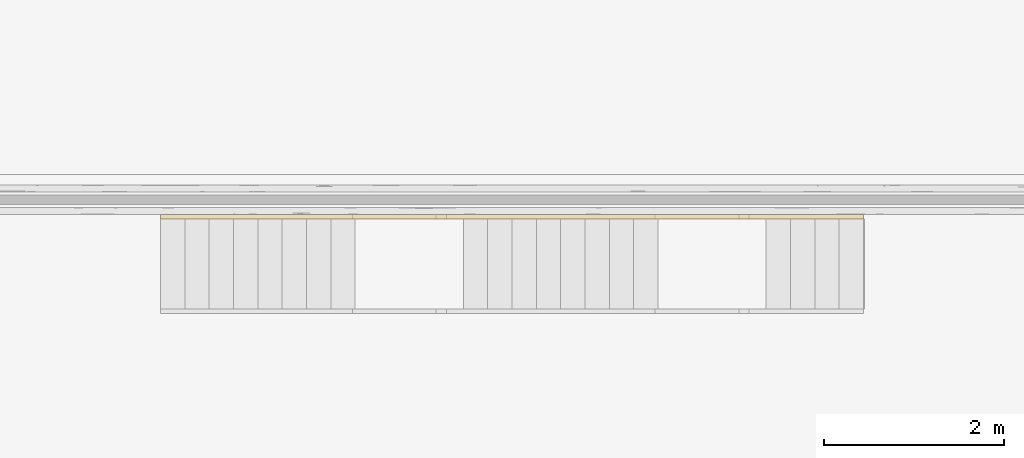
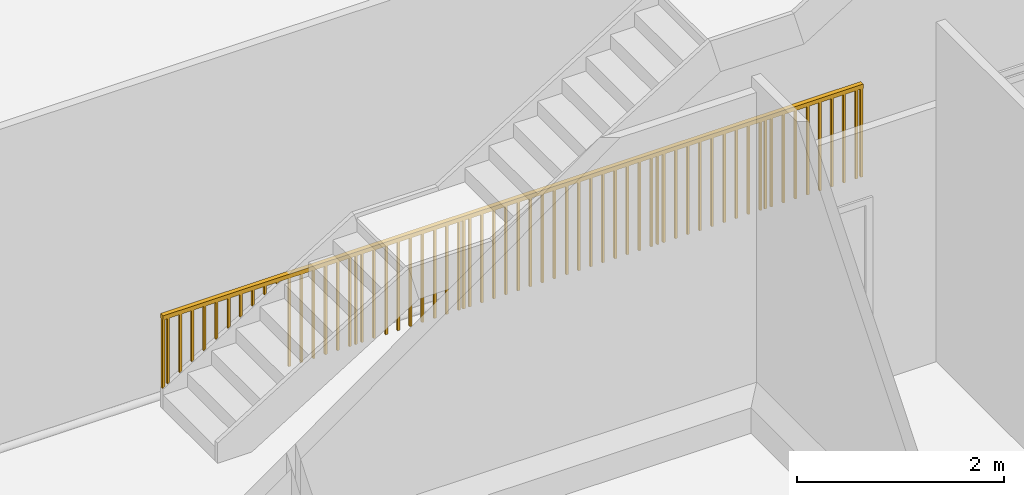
# One storey, part 59 of 64: 1 railing, 1 element without a shape of its own.
"""IFC2X3 building model written with IfcOpenShell, lengths in millimetres."""

from ifc_helpers import new_model, entity, si_unit, converted_unit, derived_unit, direction, frame, origin, place, context, subcontext, project, spatial, faceted_brep, element, aggregate, save


model = new_model("IFC2X3")

# Units and contexts
model_context = context("Model", 3, precision=0.01, world=origin(), true_north=direction((4.05803320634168e-15, -1.0)))
body_context = subcontext(model_context, "Body", "Model", "MODEL_VIEW")
ifc_project = project(units=[si_unit("LENGTHUNIT", "METRE", prefix="MILLI"), si_unit("AREAUNIT", "SQUARE_METRE"), si_unit("VOLUMEUNIT", "CUBIC_METRE"), converted_unit("PLANEANGLEUNIT", "DEGREE", entity("IfcRatioMeasure", 0.0174532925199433), si_unit("PLANEANGLEUNIT", "RADIAN"), dimensions=[0, 0, 0, 0, 0, 0, 0]), si_unit("MASSUNIT", "GRAM", prefix="KILO"), derived_unit("MASSDENSITYUNIT", [(si_unit("MASSUNIT", "GRAM", prefix="KILO"), 1), (si_unit("LENGTHUNIT", "METRE"), -3)]), si_unit("TIMEUNIT", "SECOND"), si_unit("FREQUENCYUNIT", "HERTZ"), si_unit("THERMODYNAMICTEMPERATUREUNIT", "DEGREE_CELSIUS"), derived_unit("THERMALTRANSMITTANCEUNIT", [(si_unit("MASSUNIT", "GRAM", prefix="KILO"), 1), (si_unit("THERMODYNAMICTEMPERATUREUNIT", "KELVIN"), -1), (si_unit("TIMEUNIT", "SECOND"), -3)]), derived_unit("VOLUMETRICFLOWRATEUNIT", [(si_unit("LENGTHUNIT", "METRE"), 3), (si_unit("TIMEUNIT", "SECOND"), -1)]), si_unit("ELECTRICCURRENTUNIT", "AMPERE"), si_unit("ELECTRICVOLTAGEUNIT", "VOLT"), si_unit("POWERUNIT", "WATT"), si_unit("FORCEUNIT", "NEWTON", prefix="KILO"), si_unit("ILLUMINANCEUNIT", "LUX"), si_unit("LUMINOUSFLUXUNIT", "LUMEN"), si_unit("LUMINOUSINTENSITYUNIT", "CANDELA"), derived_unit("USERDEFINED", [(si_unit("MASSUNIT", "GRAM", prefix="KILO"), -1), (si_unit("LENGTHUNIT", "METRE"), -2), (si_unit("TIMEUNIT", "SECOND"), 3), (si_unit("LUMINOUSFLUXUNIT", "LUMEN"), 1)]), derived_unit("LINEARVELOCITYUNIT", [(si_unit("LENGTHUNIT", "METRE"), 1), (si_unit("TIMEUNIT", "SECOND"), -1)]), si_unit("PRESSUREUNIT", "PASCAL"), derived_unit("USERDEFINED", [(si_unit("LENGTHUNIT", "METRE"), -2), (si_unit("MASSUNIT", "GRAM", prefix="KILO"), 1), (si_unit("TIMEUNIT", "SECOND"), -2)])], contexts=[model_context])

# Site, building, storey
site_placement = place(None, frame((927466.849349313, 583801.882853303, 0.0), z_axis=(0.0, 0.0, 1.0), x_axis=(-1.0, 0.0, 0.0)))
site = spatial("IfcSite", under=ifc_project, at=site_placement, Name="Surface", CompositionType="ELEMENT")
building_placement = place(site_placement, origin())
building = spatial("IfcBuilding", under=site, at=building_placement, CompositionType="ELEMENT")
storey_placement = place(building_placement, frame((0.0, 0.0, 44170.0)))
storey = spatial("IfcBuildingStorey", under=building, at=storey_placement, Name="Ground FFL", CompositionType="ELEMENT", Elevation=44170.0)

# Stair, railing
stair_placement = place(storey_placement, origin())
stair = element("IfcStair", 1, at=stair_placement, inside=storey, Name="Assembled Stair:Stair", ObjectType="Assembled Stair:170mm max riser 270mm going", ShapeType="NOTDEFINED")
railing_placement = place(stair_placement, frame((-112968.940011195, 12122.4703497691, 0.0)))
railing = element("IfcRailing", 2, at=railing_placement, Name="Railing:1100mm", ObjectType="Railing:1100mm", PredefinedType="NOTDEFINED", context=body_context, shape_type="Brep", body=[
    faceted_brep([(80.0, 37.5000000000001, 1050.0), (80.0, 12.4999999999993, 1050.0), (80.0, 12.5000000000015, 0.0), (80.0, 37.5000000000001, 0.0), (55.0, 12.5000000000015, 1050.0), (55.0, 12.5000000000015, 0.0), (55.0, 37.5000000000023, 1050.0), (55.0, 37.5000000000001, 0.0)], [[[0, 1, 2, 3]], [[1, 4, 5, 2]], [[4, 6, 7, 5]], [[3, 7, 6, 0]], [[0, 6, 4, 1]], [[2, 5, 7, 3]]]),
    faceted_brep([(215.0, 37.5000000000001, 1050.0), (215.0, 12.4999999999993, 1050.0), (215.0, 12.5000000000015, 0.0), (215.0, 37.5000000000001, 0.0), (190.0, 12.5000000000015, 1050.0), (190.0, 12.5000000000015, 0.0), (190.0, 37.5000000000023, 1050.0), (190.0, 37.5000000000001, 0.0)], [[[0, 1, 2, 3]], [[1, 4, 5, 2]], [[4, 6, 7, 5]], [[3, 7, 6, 0]], [[0, 6, 4, 1]], [[2, 5, 7, 3]]]),
    faceted_brep([(350.0, 37.5000000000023, 1050.0), (350.0, 12.5000000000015, 1050.0), (350.0, 12.5000000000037, 0.0), (350.0, 37.5000000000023, 0.0), (325.0, 12.5000000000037, 1050.0), (325.0, 12.5000000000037, 0.0), (325.0, 37.5000000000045, 1050.0), (325.0, 37.5000000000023, 0.0)], [[[0, 1, 2, 3]], [[1, 4, 5, 2]], [[4, 6, 7, 5]], [[3, 7, 6, 0]], [[0, 6, 4, 1]], [[2, 5, 7, 3]]]),
    faceted_brep([(485.0, 37.5000000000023, 1050.0), (485.0, 12.5000000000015, 1050.0), (485.0, 12.5000000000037, 0.0), (485.0, 37.5000000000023, 0.0), (460.0, 12.5000000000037, 1050.0), (460.0, 12.5000000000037, 0.0), (460.0, 37.5000000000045, 1050.0), (460.0, 37.5000000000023, 0.0)], [[[0, 1, 2, 3]], [[1, 4, 5, 2]], [[4, 6, 7, 5]], [[3, 7, 6, 0]], [[0, 6, 4, 1]], [[2, 5, 7, 3]]]),
    faceted_brep([(620.0, 37.5000000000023, 1050.0), (620.0, 12.5000000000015, 1050.0), (620.0, 12.5000000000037, 0.0), (620.0, 37.5000000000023, 0.0), (595.0, 12.5000000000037, 1050.0), (595.0, 12.5000000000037, 0.0), (595.0, 37.5000000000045, 1050.0), (595.0, 37.5000000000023, 0.0)], [[[0, 1, 2, 3]], [[1, 4, 5, 2]], [[4, 6, 7, 5]], [[3, 7, 6, 0]], [[0, 6, 4, 1]], [[2, 5, 7, 3]]]),
    faceted_brep([(755.0, 37.5000000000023, 1050.0), (755.0, 12.5000000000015, 1050.0), (755.0, 12.5000000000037, 0.0), (755.0, 37.5000000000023, 0.0), (730.0, 12.5000000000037, 1050.0), (730.0, 12.5000000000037, 0.0), (730.0, 37.5000000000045, 1050.0), (730.0, 37.5000000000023, 0.0)], [[[0, 1, 2, 3]], [[1, 4, 5, 2]], [[4, 6, 7, 5]], [[3, 7, 6, 0]], [[0, 6, 4, 1]], [[2, 5, 7, 3]]]),
    faceted_brep([(890.0, 37.5000000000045, 1050.0), (890.0, 12.5000000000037, 1050.0), (890.0, 12.5000000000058, 0.0), (890.0, 37.5000000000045, 0.0), (865.0, 12.5000000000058, 1050.0), (865.0, 12.5000000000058, 0.0), (865.0, 37.5000000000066, 1050.0), (865.0, 37.5000000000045, 0.0)], [[[0, 1, 2, 3]], [[1, 4, 5, 2]], [[4, 6, 7, 5]], [[3, 7, 6, 0]], [[0, 6, 4, 1]], [[2, 5, 7, 3]]]),
    faceted_brep([(1025.0, 37.5000000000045, 1050.0), (1025.0, 12.5000000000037, 1050.0), (1025.0, 12.5000000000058, 0.0), (1025.0, 37.5000000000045, 0.0), (1000.0, 12.5000000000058, 1050.0), (1000.0, 12.5000000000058, 0.0), (1000.0, 37.5000000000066, 1050.0), (1000.0, 37.5000000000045, 0.0)], [[[0, 1, 2, 3]], [[1, 4, 5, 2]], [[4, 6, 7, 5]], [[3, 7, 6, 0]], [[0, 6, 4, 1]], [[2, 5, 7, 3]]]),
    faceted_brep([(1145.0, 37.5000000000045, 1050.0), (1145.0, 12.5000000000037, 1050.0), (1145.0, 12.5000000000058, 0.0), (1145.0, 37.5000000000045, 0.0), (1120.0, 12.5000000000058, 1050.0), (1120.0, 12.5000000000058, 0.0), (1120.0, 37.5000000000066, 1050.0), (1120.0, 37.5000000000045, 0.0)], [[[0, 1, 2, 3]], [[1, 4, 5, 2]], [[4, 6, 7, 5]], [[3, 7, 6, 0]], [[0, 6, 4, 1]], [[2, 5, 7, 3]]]),
    faceted_brep([(1280.0, 37.5000000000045, 1050.0), (1280.0, 12.5000000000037, 1050.0), (1280.0, 12.5000000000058, 0.0), (1280.0, 37.5000000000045, 0.0), (1255.0, 12.5000000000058, 1050.0), (1255.0, 12.5000000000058, 0.0), (1255.0, 37.5000000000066, 1050.0), (1255.0, 37.5000000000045, 0.0)], [[[0, 1, 2, 3]], [[1, 4, 5, 2]], [[4, 6, 7, 5]], [[3, 7, 6, 0]], [[0, 6, 4, 1]], [[2, 5, 7, 3]]]),
    faceted_brep([(1415.0, 37.5000000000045, 1050.0), (1415.0, 12.5000000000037, 1050.0), (1415.0, 12.5000000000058, 0.0), (1415.0, 37.5000000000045, 0.0), (1390.0, 12.5000000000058, 1050.0), (1390.0, 12.5000000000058, 0.0), (1390.0, 37.5000000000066, 1050.0), (1390.0, 37.5000000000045, 0.0)], [[[0, 1, 2, 3]], [[1, 4, 5, 2]], [[4, 6, 7, 5]], [[3, 7, 6, 0]], [[0, 6, 4, 1]], [[2, 5, 7, 3]]]),
    faceted_brep([(1550.0, 37.5000000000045, 1050.0), (1550.0, 12.5000000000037, 1050.0), (1550.0, 12.5000000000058, 0.0), (1550.0, 37.5000000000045, 0.0), (1525.0, 12.5000000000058, 1050.0), (1525.0, 12.5000000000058, 0.0), (1525.0, 37.5000000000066, 1050.0), (1525.0, 37.5000000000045, 0.0)], [[[0, 1, 2, 3]], [[1, 4, 5, 2]], [[4, 6, 7, 5]], [[3, 7, 6, 0]], [[0, 6, 4, 1]], [[2, 5, 7, 3]]]),
    faceted_brep([(1685.0, 37.5000000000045, 1050.0), (1685.0, 12.5000000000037, 1050.0), (1685.0, 12.5000000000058, 0.0), (1685.0, 37.5000000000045, 0.0), (1660.0, 12.5000000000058, 1050.0), (1660.0, 12.5000000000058, 0.0), (1660.0, 37.5000000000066, 1050.0), (1660.0, 37.5000000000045, 0.0)], [[[0, 1, 2, 3]], [[1, 4, 5, 2]], [[4, 6, 7, 5]], [[3, 7, 6, 0]], [[0, 6, 4, 1]], [[2, 5, 7, 3]]]),
    faceted_brep([(1820.0, 37.5000000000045, 1050.0), (1820.0, 12.5000000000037, 1050.0), (1820.0, 12.5000000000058, 0.0), (1820.0, 37.5000000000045, 0.0), (1795.0, 12.5000000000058, 1050.0), (1795.0, 12.5000000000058, 0.0), (1795.0, 37.5000000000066, 1050.0), (1795.0, 37.5000000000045, 0.0)], [[[0, 1, 2, 3]], [[1, 4, 5, 2]], [[4, 6, 7, 5]], [[3, 7, 6, 0]], [[0, 6, 4, 1]], [[2, 5, 7, 3]]]),
    faceted_brep([(1955.0, 37.5000000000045, 1050.0), (1955.0, 12.5000000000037, 1050.0), (1955.0, 12.5000000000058, 0.0), (1955.0, 37.5000000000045, 0.0), (1930.0, 12.5000000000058, 1050.0), (1930.0, 12.5000000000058, 0.0), (1930.0, 37.5000000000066, 1050.0), (1930.0, 37.5000000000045, 0.0)], [[[0, 1, 2, 3]], [[1, 4, 5, 2]], [[4, 6, 7, 5]], [[3, 7, 6, 0]], [[0, 6, 4, 1]], [[2, 5, 7, 3]]]),
    faceted_brep([(2090.0, 37.5000000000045, 1050.0), (2090.0, 12.5000000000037, 1050.0), (2090.0, 12.5000000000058, 0.0), (2090.0, 37.5000000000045, 0.0), (2065.0, 12.5000000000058, 1050.0), (2065.0, 12.5000000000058, 0.0), (2065.0, 37.5000000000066, 1050.0), (2065.0, 37.5000000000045, 0.0)], [[[0, 1, 2, 3]], [[1, 4, 5, 2]], [[4, 6, 7, 5]], [[3, 7, 6, 0]], [[0, 6, 4, 1]], [[2, 5, 7, 3]]]),
    faceted_brep([(2225.0, 37.5000000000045, 1050.0), (2225.0, 12.5000000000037, 1050.0), (2225.0, 12.5000000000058, 0.0), (2225.0, 37.5000000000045, 0.0), (2200.0, 12.5000000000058, 1050.0), (2200.0, 12.5000000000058, 0.0), (2200.0, 37.5000000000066, 1050.0), (2200.0, 37.5000000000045, 0.0)], [[[0, 1, 2, 3]], [[1, 4, 5, 2]], [[4, 6, 7, 5]], [[3, 7, 6, 0]], [[0, 6, 4, 1]], [[2, 5, 7, 3]]]),
    faceted_brep([(2360.0, 37.5000000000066, 1050.0), (2360.0, 12.5000000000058, 1050.0), (2360.0, 12.500000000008, 0.0), (2360.0, 37.5000000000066, 0.0), (2335.0, 12.500000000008, 1050.0), (2335.0, 12.500000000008, 0.0), (2335.0, 37.5000000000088, 1050.0), (2335.0, 37.5000000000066, 0.0)], [[[0, 1, 2, 3]], [[1, 4, 5, 2]], [[4, 6, 7, 5]], [[3, 7, 6, 0]], [[0, 6, 4, 1]], [[2, 5, 7, 3]]]),
    faceted_brep([(2495.0, 37.5000000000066, 1050.0), (2495.0, 12.5000000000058, 1050.0), (2495.0, 12.500000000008, 0.0), (2495.0, 37.5000000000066, 0.0), (2470.0, 12.500000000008, 1050.0), (2470.0, 12.500000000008, 0.0), (2470.0, 37.5000000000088, 1050.0), (2470.0, 37.5000000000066, 0.0)], [[[0, 1, 2, 3]], [[1, 4, 5, 2]], [[4, 6, 7, 5]], [[3, 7, 6, 0]], [[0, 6, 4, 1]], [[2, 5, 7, 3]]]),
    faceted_brep([(2630.0, 37.5000000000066, 1050.0), (2630.0, 12.5000000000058, 1050.0), (2630.0, 12.500000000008, 0.0), (2630.0, 37.5000000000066, 0.0), (2605.0, 12.500000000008, 1050.0), (2605.0, 12.500000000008, 0.0), (2605.0, 37.5000000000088, 1050.0), (2605.0, 37.5000000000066, 0.0)], [[[0, 1, 2, 3]], [[1, 4, 5, 2]], [[4, 6, 7, 5]], [[3, 7, 6, 0]], [[0, 6, 4, 1]], [[2, 5, 7, 3]]]),
    faceted_brep([(2765.0, 37.5000000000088, 1050.0), (2765.0, 12.500000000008, 1050.0), (2765.0, 12.5000000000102, 0.0), (2765.0, 37.5000000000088, 0.0), (2740.0, 12.5000000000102, 1050.0), (2740.0, 12.5000000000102, 0.0), (2740.0, 37.500000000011, 1050.0), (2740.0, 37.5000000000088, 0.0)], [[[0, 1, 2, 3]], [[1, 4, 5, 2]], [[4, 6, 7, 5]], [[3, 7, 6, 0]], [[0, 6, 4, 1]], [[2, 5, 7, 3]]]),
    faceted_brep([(2900.0, 37.5000000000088, 1050.0), (2900.0, 12.500000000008, 1050.0), (2900.0, 12.5000000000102, 0.0), (2900.0, 37.5000000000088, 0.0), (2875.0, 12.5000000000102, 1050.0), (2875.0, 12.5000000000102, 0.0), (2875.0, 37.500000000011, 1050.0), (2875.0, 37.5000000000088, 0.0)], [[[0, 1, 2, 3]], [[1, 4, 5, 2]], [[4, 6, 7, 5]], [[3, 7, 6, 0]], [[0, 6, 4, 1]], [[2, 5, 7, 3]]]),
    faceted_brep([(3035.0, 37.5000000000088, 1050.0), (3035.0, 12.500000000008, 1050.0), (3035.0, 12.5000000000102, 0.0), (3035.0, 37.5000000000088, 0.0), (3010.0, 12.5000000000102, 1050.0), (3010.0, 12.5000000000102, 0.0), (3010.0, 37.500000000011, 1050.0), (3010.0, 37.5000000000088, 0.0)], [[[0, 1, 2, 3]], [[1, 4, 5, 2]], [[4, 6, 7, 5]], [[3, 7, 6, 0]], [[0, 6, 4, 1]], [[2, 5, 7, 3]]]),
    faceted_brep([(3170.0, 37.5000000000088, 1050.0), (3170.0, 12.500000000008, 1050.0), (3170.0, 12.5000000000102, 0.0), (3170.0, 37.5000000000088, 0.0), (3145.0, 12.5000000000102, 1050.0), (3145.0, 12.5000000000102, 0.0), (3145.0, 37.500000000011, 1050.0), (3145.0, 37.5000000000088, 0.0)], [[[0, 1, 2, 3]], [[1, 4, 5, 2]], [[4, 6, 7, 5]], [[3, 7, 6, 0]], [[0, 6, 4, 1]], [[2, 5, 7, 3]]]),
    faceted_brep([(3305.0, 37.5000000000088, 1050.0), (3305.0, 12.500000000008, 1050.0), (3305.0, 12.5000000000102, 0.0), (3305.0, 37.5000000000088, 0.0), (3280.0, 12.5000000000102, 1050.0), (3280.0, 12.5000000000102, 0.0), (3280.0, 37.500000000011, 1050.0), (3280.0, 37.5000000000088, 0.0)], [[[0, 1, 2, 3]], [[1, 4, 5, 2]], [[4, 6, 7, 5]], [[3, 7, 6, 0]], [[0, 6, 4, 1]], [[2, 5, 7, 3]]]),
    faceted_brep([(3440.0, 37.500000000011, 1050.0), (3440.0, 12.5000000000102, 1050.0), (3440.0, 12.5000000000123, 0.0), (3440.0, 37.500000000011, 0.0), (3415.0, 12.5000000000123, 1050.0), (3415.0, 12.5000000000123, 0.0), (3415.0, 37.5000000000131, 1050.0), (3415.0, 37.500000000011, 0.0)], [[[0, 1, 2, 3]], [[1, 4, 5, 2]], [[4, 6, 7, 5]], [[3, 7, 6, 0]], [[0, 6, 4, 1]], [[2, 5, 7, 3]]]),
    faceted_brep([(3575.0, 37.500000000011, 1050.0), (3575.0, 12.5000000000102, 1050.0), (3575.0, 12.5000000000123, 0.0), (3575.0, 37.500000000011, 0.0), (3550.0, 12.5000000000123, 1050.0), (3550.0, 12.5000000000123, 0.0), (3550.0, 37.5000000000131, 1050.0), (3550.0, 37.500000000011, 0.0)], [[[0, 1, 2, 3]], [[1, 4, 5, 2]], [[4, 6, 7, 5]], [[3, 7, 6, 0]], [[0, 6, 4, 1]], [[2, 5, 7, 3]]]),
    faceted_brep([(3710.0, 37.500000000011, 1050.0), (3710.0, 12.5000000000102, 1050.0), (3710.0, 12.5000000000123, 0.0), (3710.0, 37.500000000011, 0.0), (3685.0, 12.5000000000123, 1050.0), (3685.0, 12.5000000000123, 0.0), (3685.0, 37.5000000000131, 1050.0), (3685.0, 37.500000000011, 0.0)], [[[0, 1, 2, 3]], [[1, 4, 5, 2]], [[4, 6, 7, 5]], [[3, 7, 6, 0]], [[0, 6, 4, 1]], [[2, 5, 7, 3]]]),
    faceted_brep([(3845.0, 37.500000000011, 1050.0), (3845.0, 12.5000000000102, 1050.0), (3845.0, 12.5000000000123, 0.0), (3845.0, 37.500000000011, 0.0), (3820.0, 12.5000000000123, 1050.0), (3820.0, 12.5000000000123, 0.0), (3820.0, 37.5000000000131, 1050.0), (3820.0, 37.500000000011, 0.0)], [[[0, 1, 2, 3]], [[1, 4, 5, 2]], [[4, 6, 7, 5]], [[3, 7, 6, 0]], [[0, 6, 4, 1]], [[2, 5, 7, 3]]]),
    faceted_brep([(3980.0, 37.500000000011, 1050.0), (3980.0, 12.5000000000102, 1050.0), (3980.0, 12.5000000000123, 0.0), (3980.0, 37.500000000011, 0.0), (3955.0, 12.5000000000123, 1050.0), (3955.0, 12.5000000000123, 0.0), (3955.0, 37.5000000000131, 1050.0), (3955.0, 37.500000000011, 0.0)], [[[0, 1, 2, 3]], [[1, 4, 5, 2]], [[4, 6, 7, 5]], [[3, 7, 6, 0]], [[0, 6, 4, 1]], [[2, 5, 7, 3]]]),
    faceted_brep([(4115.0, 37.5000000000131, 1050.0), (4115.0, 12.5000000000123, 1050.0), (4115.0, 12.5000000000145, 0.0), (4115.0, 37.5000000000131, 0.0), (4090.0, 12.5000000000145, 1050.0), (4090.0, 12.5000000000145, 0.0), (4090.0, 37.5000000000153, 1050.0), (4090.0, 37.5000000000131, 0.0)], [[[0, 1, 2, 3]], [[1, 4, 5, 2]], [[4, 6, 7, 5]], [[3, 7, 6, 0]], [[0, 6, 4, 1]], [[2, 5, 7, 3]]]),
    faceted_brep([(4250.0, 37.5000000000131, 1050.0), (4250.0, 12.5000000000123, 1050.0), (4250.0, 12.5000000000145, 0.0), (4250.0, 37.5000000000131, 0.0), (4225.0, 12.5000000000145, 1050.0), (4225.0, 12.5000000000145, 0.0), (4225.0, 37.5000000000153, 1050.0), (4225.0, 37.5000000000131, 0.0)], [[[0, 1, 2, 3]], [[1, 4, 5, 2]], [[4, 6, 7, 5]], [[3, 7, 6, 0]], [[0, 6, 4, 1]], [[2, 5, 7, 3]]]),
    faceted_brep([(4385.0, 37.5000000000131, 1050.0), (4385.0, 12.5000000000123, 1050.0), (4385.0, 12.5000000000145, 0.0), (4385.0, 37.5000000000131, 0.0), (4360.0, 12.5000000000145, 1050.0), (4360.0, 12.5000000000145, 0.0), (4360.0, 37.5000000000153, 1050.0), (4360.0, 37.5000000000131, 0.0)], [[[0, 1, 2, 3]], [[1, 4, 5, 2]], [[4, 6, 7, 5]], [[3, 7, 6, 0]], [[0, 6, 4, 1]], [[2, 5, 7, 3]]]),
    faceted_brep([(4504.94550989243, 37.5000000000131, 1050.0), (4504.94550989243, 12.5000000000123, 1050.0), (4504.94550989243, 12.5000000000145, 0.0), (4504.94550989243, 37.5000000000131, 0.0), (4479.94550989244, 12.5000000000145, 1050.0), (4479.94550989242, 12.5000000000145, 0.0), (4479.94550989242, 37.5000000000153, 1050.0), (4479.94550989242, 37.5000000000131, 0.0)], [[[0, 1, 2, 3]], [[1, 4, 5, 2]], [[4, 6, 7, 5]], [[3, 7, 6, 0]], [[0, 6, 4, 1]], [[2, 5, 7, 3]]]),
    faceted_brep([(4639.94550989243, 37.5000000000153, 1050.0), (4639.94550989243, 12.5000000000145, 1050.0), (4639.94550989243, 12.5000000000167, 0.0), (4639.94550989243, 37.5000000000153, 0.0), (4614.94550989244, 12.5000000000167, 1050.0), (4614.94550989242, 12.5000000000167, 0.0), (4614.94550989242, 37.5000000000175, 1050.0), (4614.94550989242, 37.5000000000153, 0.0)], [[[0, 1, 2, 3]], [[1, 4, 5, 2]], [[4, 6, 7, 5]], [[3, 7, 6, 0]], [[0, 6, 4, 1]], [[2, 5, 7, 3]]]),
    faceted_brep([(4774.94550989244, 37.5000000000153, 1050.0), (4774.94550989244, 12.5000000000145, 1050.0), (4774.94550989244, 12.5000000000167, 0.0), (4774.94550989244, 37.5000000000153, 0.0), (4749.94550989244, 12.5000000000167, 1050.0), (4749.94550989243, 12.5000000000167, 0.0), (4749.94550989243, 37.5000000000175, 1050.0), (4749.94550989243, 37.5000000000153, 0.0)], [[[0, 1, 2, 3]], [[1, 4, 5, 2]], [[4, 6, 7, 5]], [[3, 7, 6, 0]], [[0, 6, 4, 1]], [[2, 5, 7, 3]]]),
    faceted_brep([(4909.94550989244, 37.5000000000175, 1050.0), (4909.94550989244, 12.5000000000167, 1050.0), (4909.94550989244, 12.5000000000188, 0.0), (4909.94550989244, 37.5000000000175, 0.0), (4884.94550989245, 12.5000000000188, 1050.0), (4884.94550989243, 12.5000000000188, 0.0), (4884.94550989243, 37.5000000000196, 1050.0), (4884.94550989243, 37.5000000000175, 0.0)], [[[0, 1, 2, 3]], [[1, 4, 5, 2]], [[4, 6, 7, 5]], [[3, 7, 6, 0]], [[0, 6, 4, 1]], [[2, 5, 7, 3]]]),
    faceted_brep([(5044.94550989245, 37.5000000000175, 1050.0), (5044.94550989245, 12.5000000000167, 1050.0), (5044.94550989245, 12.5000000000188, 0.0), (5044.94550989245, 37.5000000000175, 0.0), (5019.94550989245, 12.5000000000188, 1050.0), (5019.94550989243, 12.5000000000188, 0.0), (5019.94550989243, 37.5000000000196, 1050.0), (5019.94550989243, 37.5000000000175, 0.0)], [[[0, 1, 2, 3]], [[1, 4, 5, 2]], [[4, 6, 7, 5]], [[3, 7, 6, 0]], [[0, 6, 4, 1]], [[2, 5, 7, 3]]]),
    faceted_brep([(5179.94550989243, 37.5000000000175, 1050.0), (5179.94550989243, 12.5000000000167, 1050.0), (5179.94550989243, 12.5000000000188, 0.0), (5179.94550989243, 37.5000000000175, 0.0), (5154.94550989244, 12.5000000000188, 1050.0), (5154.94550989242, 12.5000000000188, 0.0), (5154.94550989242, 37.5000000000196, 1050.0), (5154.94550989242, 37.5000000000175, 0.0)], [[[0, 1, 2, 3]], [[1, 4, 5, 2]], [[4, 6, 7, 5]], [[3, 7, 6, 0]], [[0, 6, 4, 1]], [[2, 5, 7, 3]]]),
    faceted_brep([(5314.94550989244, 37.5000000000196, 1050.0), (5314.94550989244, 12.5000000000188, 1050.0), (5314.94550989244, 12.500000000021, 0.0), (5314.94550989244, 37.5000000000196, 0.0), (5289.94550989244, 12.500000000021, 1050.0), (5289.94550989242, 12.500000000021, 0.0), (5289.94550989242, 37.5000000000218, 1050.0), (5289.94550989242, 37.5000000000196, 0.0)], [[[0, 1, 2, 3]], [[1, 4, 5, 2]], [[4, 6, 7, 5]], [[3, 7, 6, 0]], [[0, 6, 4, 1]], [[2, 5, 7, 3]]]),
    faceted_brep([(5449.94550989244, 37.5000000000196, 1050.0), (5449.94550989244, 12.5000000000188, 1050.0), (5449.94550989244, 12.500000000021, 0.0), (5449.94550989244, 37.5000000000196, 0.0), (5424.94550989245, 12.500000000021, 1050.0), (5424.94550989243, 12.500000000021, 0.0), (5424.94550989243, 37.5000000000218, 1050.0), (5424.94550989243, 37.5000000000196, 0.0)], [[[0, 1, 2, 3]], [[1, 4, 5, 2]], [[4, 6, 7, 5]], [[3, 7, 6, 0]], [[0, 6, 4, 1]], [[2, 5, 7, 3]]]),
    faceted_brep([(5584.94550989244, 37.5000000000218, 1050.0), (5584.94550989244, 12.500000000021, 1050.0), (5584.94550989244, 12.5000000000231, 0.0), (5584.94550989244, 37.5000000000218, 0.0), (5559.94550989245, 12.5000000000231, 1050.0), (5559.94550989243, 12.5000000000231, 0.0), (5559.94550989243, 37.500000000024, 1050.0), (5559.94550989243, 37.5000000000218, 0.0)], [[[0, 1, 2, 3]], [[1, 4, 5, 2]], [[4, 6, 7, 5]], [[3, 7, 6, 0]], [[0, 6, 4, 1]], [[2, 5, 7, 3]]]),
    faceted_brep([(5719.94550989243, 37.500000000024, 1050.0), (5719.94550989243, 12.5000000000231, 1050.0), (5719.94550989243, 12.5000000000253, 0.0), (5719.94550989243, 37.500000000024, 0.0), (5694.94550989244, 12.5000000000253, 1050.0), (5694.94550989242, 12.5000000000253, 0.0), (5694.94550989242, 37.5000000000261, 1050.0), (5694.94550989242, 37.500000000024, 0.0)], [[[0, 1, 2, 3]], [[1, 4, 5, 2]], [[4, 6, 7, 5]], [[3, 7, 6, 0]], [[0, 6, 4, 1]], [[2, 5, 7, 3]]]),
    faceted_brep([(5854.94550989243, 37.500000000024, 1050.0), (5854.94550989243, 12.5000000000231, 1050.0), (5854.94550989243, 12.5000000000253, 0.0), (5854.94550989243, 37.500000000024, 0.0), (5829.94550989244, 12.5000000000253, 1050.0), (5829.94550989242, 12.5000000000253, 0.0), (5829.94550989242, 37.5000000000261, 1050.0), (5829.94550989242, 37.500000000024, 0.0)], [[[0, 1, 2, 3]], [[1, 4, 5, 2]], [[4, 6, 7, 5]], [[3, 7, 6, 0]], [[0, 6, 4, 1]], [[2, 5, 7, 3]]]),
    faceted_brep([(5989.94550989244, 37.500000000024, 1050.0), (5989.94550989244, 12.5000000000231, 1050.0), (5989.94550989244, 12.5000000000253, 0.0), (5989.94550989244, 37.500000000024, 0.0), (5964.94550989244, 12.5000000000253, 1050.0), (5964.94550989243, 12.5000000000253, 0.0), (5964.94550989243, 37.5000000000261, 1050.0), (5964.94550989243, 37.500000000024, 0.0)], [[[0, 1, 2, 3]], [[1, 4, 5, 2]], [[4, 6, 7, 5]], [[3, 7, 6, 0]], [[0, 6, 4, 1]], [[2, 5, 7, 3]]]),
    faceted_brep([(6124.94550989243, 37.5000000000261, 1050.0), (6124.94550989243, 12.5000000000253, 1050.0), (6124.94550989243, 12.5000000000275, 0.0), (6124.94550989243, 37.5000000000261, 0.0), (6099.94550989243, 12.5000000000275, 1050.0), (6099.94550989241, 12.5000000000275, 0.0), (6099.94550989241, 37.5000000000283, 1050.0), (6099.94550989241, 37.5000000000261, 0.0)], [[[0, 1, 2, 3]], [[1, 4, 5, 2]], [[4, 6, 7, 5]], [[3, 7, 6, 0]], [[0, 6, 4, 1]], [[2, 5, 7, 3]]]),
    faceted_brep([(6259.94550989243, 37.5000000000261, 1050.0), (6259.94550989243, 12.5000000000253, 1050.0), (6259.94550989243, 12.5000000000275, 0.0), (6259.94550989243, 37.5000000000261, 0.0), (6234.94550989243, 12.5000000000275, 1050.0), (6234.94550989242, 12.5000000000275, 0.0), (6234.94550989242, 37.5000000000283, 1050.0), (6234.94550989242, 37.5000000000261, 0.0)], [[[0, 1, 2, 3]], [[1, 4, 5, 2]], [[4, 6, 7, 5]], [[3, 7, 6, 0]], [[0, 6, 4, 1]], [[2, 5, 7, 3]]]),
    faceted_brep([(6394.94550989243, 37.5000000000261, 1050.0), (6394.94550989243, 12.5000000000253, 1050.0), (6394.94550989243, 12.5000000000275, 0.0), (6394.94550989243, 37.5000000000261, 0.0), (6369.94550989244, 12.5000000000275, 1050.0), (6369.94550989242, 12.5000000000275, 0.0), (6369.94550989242, 37.5000000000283, 1050.0), (6369.94550989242, 37.5000000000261, 0.0)], [[[0, 1, 2, 3]], [[1, 4, 5, 2]], [[4, 6, 7, 5]], [[3, 7, 6, 0]], [[0, 6, 4, 1]], [[2, 5, 7, 3]]]),
    faceted_brep([(6529.94550989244, 37.5000000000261, 1050.0), (6529.94550989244, 12.5000000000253, 1050.0), (6529.94550989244, 12.5000000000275, 1020.02865775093), (6529.94550989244, 37.5000000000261, 1020.02865775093), (6504.94550989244, 12.5000000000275, 1050.0), (6504.94550989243, 12.5000000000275, 1035.46075651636), (6504.94550989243, 37.5000000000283, 1050.0), (6504.94550989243, 37.5000000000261, 1035.46075651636)], [[[0, 1, 2, 3]], [[1, 4, 5, 2]], [[4, 6, 7, 5]], [[3, 7, 6, 0]], [[0, 6, 4, 1]], [[2, 5, 7, 3]]]),
    faceted_brep([(6664.94550989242, 37.5000000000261, 1050.0), (6664.94550989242, 12.5000000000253, 1050.0), (6664.94550989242, 12.5000000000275, 936.695324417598), (6664.94550989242, 37.5000000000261, 936.695324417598), (6639.94550989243, 12.5000000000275, 1050.0), (6639.94550989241, 12.5000000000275, 952.127423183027), (6639.94550989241, 37.5000000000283, 1050.0), (6639.94550989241, 37.5000000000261, 952.127423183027)], [[[0, 1, 2, 3]], [[1, 4, 5, 2]], [[4, 6, 7, 5]], [[3, 7, 6, 0]], [[0, 6, 4, 1]], [[2, 5, 7, 3]]]),
    faceted_brep([(6799.94550989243, 37.5000000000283, 1050.0), (6799.94550989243, 12.5000000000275, 1050.0), (6799.94550989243, 12.5000000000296, 853.361991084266), (6799.94550989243, 37.5000000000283, 853.361991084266), (6774.94550989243, 12.5000000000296, 1050.0), (6774.94550989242, 12.5000000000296, 868.794089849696), (6774.94550989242, 37.5000000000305, 1050.0), (6774.94550989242, 37.5000000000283, 868.794089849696)], [[[0, 1, 2, 3]], [[1, 4, 5, 2]], [[4, 6, 7, 5]], [[3, 7, 6, 0]], [[0, 6, 4, 1]], [[2, 5, 7, 3]]]),
    faceted_brep([(6934.94550989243, 37.5000000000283, 1050.0), (6934.94550989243, 12.5000000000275, 1050.0), (6934.94550989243, 12.5000000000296, 770.028657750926), (6934.94550989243, 37.5000000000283, 770.028657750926), (6909.94550989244, 12.5000000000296, 1050.0), (6909.94550989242, 12.5000000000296, 785.460756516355), (6909.94550989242, 37.5000000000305, 1050.0), (6909.94550989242, 37.5000000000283, 785.460756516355)], [[[0, 1, 2, 3]], [[1, 4, 5, 2]], [[4, 6, 7, 5]], [[3, 7, 6, 0]], [[0, 6, 4, 1]], [[2, 5, 7, 3]]]),
    faceted_brep([(7069.94550989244, 37.5000000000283, 1050.0), (7069.94550989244, 12.5000000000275, 1050.0), (7069.94550989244, 12.5000000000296, 686.695324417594), (7069.94550989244, 37.5000000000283, 686.695324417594), (7044.94550989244, 12.5000000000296, 1050.0), (7044.94550989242, 12.5000000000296, 702.127423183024), (7044.94550989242, 37.5000000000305, 1050.0), (7044.94550989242, 37.5000000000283, 702.127423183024)], [[[0, 1, 2, 3]], [[1, 4, 5, 2]], [[4, 6, 7, 5]], [[3, 7, 6, 0]], [[0, 6, 4, 1]], [[2, 5, 7, 3]]]),
    faceted_brep([(7204.94550989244, 37.5000000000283, 1050.0), (7204.94550989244, 12.5000000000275, 1050.0), (7204.94550989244, 12.5000000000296, 603.361991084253), (7204.94550989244, 37.5000000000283, 603.361991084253), (7179.94550989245, 12.5000000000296, 1050.0), (7179.94550989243, 12.5000000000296, 618.794089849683), (7179.94550989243, 37.5000000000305, 1050.0), (7179.94550989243, 37.5000000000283, 618.794089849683)], [[[0, 1, 2, 3]], [[1, 4, 5, 2]], [[4, 6, 7, 5]], [[3, 7, 6, 0]], [[0, 6, 4, 1]], [[2, 5, 7, 3]]]),
    faceted_brep([(7339.94550989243, 37.5000000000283, 1050.0), (7339.94550989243, 12.5000000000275, 1050.0), (7339.94550989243, 12.5000000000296, 520.02865775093), (7339.94550989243, 37.5000000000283, 520.02865775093), (7314.94550989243, 12.5000000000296, 1050.0), (7314.94550989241, 12.5000000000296, 535.46075651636), (7314.94550989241, 37.5000000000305, 1050.0), (7314.94550989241, 37.5000000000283, 535.46075651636)], [[[0, 1, 2, 3]], [[1, 4, 5, 2]], [[4, 6, 7, 5]], [[3, 7, 6, 0]], [[0, 6, 4, 1]], [[2, 5, 7, 3]]]),
    faceted_brep([(7474.94550989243, 37.5000000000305, 1050.0), (7474.94550989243, 12.5000000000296, 1050.0), (7474.94550989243, 12.5000000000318, 436.695324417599), (7474.94550989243, 37.5000000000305, 436.695324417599), (7449.94550989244, 12.5000000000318, 1050.0), (7449.94550989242, 12.5000000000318, 452.127423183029), (7449.94550989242, 37.5000000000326, 1050.0), (7449.94550989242, 37.5000000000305, 452.127423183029)], [[[0, 1, 2, 3]], [[1, 4, 5, 2]], [[4, 6, 7, 5]], [[3, 7, 6, 0]], [[0, 6, 4, 1]], [[2, 5, 7, 3]]]),
    faceted_brep([(7609.94550989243, 37.5000000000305, 1050.0), (7609.94550989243, 12.5000000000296, 1050.0), (7609.94550989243, 12.5000000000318, 353.361991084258), (7609.94550989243, 37.5000000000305, 353.361991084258), (7584.94550989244, 12.5000000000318, 1050.0), (7584.94550989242, 12.5000000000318, 368.794089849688), (7584.94550989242, 37.5000000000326, 1050.0), (7584.94550989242, 37.5000000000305, 368.794089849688)], [[[0, 1, 2, 3]], [[1, 4, 5, 2]], [[4, 6, 7, 5]], [[3, 7, 6, 0]], [[0, 6, 4, 1]], [[2, 5, 7, 3]]]),
    faceted_brep([(7744.94550989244, 37.5000000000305, 1050.0), (7744.94550989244, 12.5000000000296, 1050.0), (7744.94550989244, 12.5000000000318, 270.028657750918), (7744.94550989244, 37.5000000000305, 270.028657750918), (7719.94550989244, 12.5000000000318, 1050.0), (7719.94550989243, 12.5000000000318, 285.460756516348), (7719.94550989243, 37.5000000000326, 1050.0), (7719.94550989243, 37.5000000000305, 285.460756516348)], [[[0, 1, 2, 3]], [[1, 4, 5, 2]], [[4, 6, 7, 5]], [[3, 7, 6, 0]], [[0, 6, 4, 1]], [[2, 5, 7, 3]]]),
    faceted_brep([(1092.5, 37.5000000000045, 1050.0), (1092.5, 12.5000000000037, 1050.0), (1092.5, 12.5000000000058, 0.0), (1092.5, 37.5000000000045, 0.0), (1067.50000000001, 12.5000000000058, 1050.0), (1067.49999999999, 12.5000000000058, 0.0), (1067.49999999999, 37.5000000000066, 1050.0), (1067.49999999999, 37.5000000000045, 0.0)], [[[0, 1, 2, 3]], [[1, 4, 5, 2]], [[4, 6, 7, 5]], [[3, 7, 6, 0]], [[0, 6, 4, 1]], [[2, 5, 7, 3]]]),
    faceted_brep([(2292.50000000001, 37.5000000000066, 1050.0), (2292.50000000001, 12.5000000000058, 1050.0), (2292.50000000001, 12.500000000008, 0.0), (2292.50000000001, 37.5000000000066, 0.0), (2267.50000000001, 12.500000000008, 1050.0), (2267.5, 12.500000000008, 0.0), (2267.5, 37.5000000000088, 1050.0), (2267.5, 37.5000000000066, 0.0)], [[[0, 1, 2, 3]], [[1, 4, 5, 2]], [[4, 6, 7, 5]], [[3, 7, 6, 0]], [[0, 6, 4, 1]], [[2, 5, 7, 3]]]),
    faceted_brep([(4452.5, 37.5000000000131, 1050.0), (4452.5, 12.5000000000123, 1050.0), (4452.5, 12.5000000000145, 0.0), (4452.5, 37.5000000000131, 0.0), (4427.50000000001, 12.5000000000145, 1050.0), (4427.49999999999, 12.5000000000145, 0.0), (4427.49999999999, 37.5000000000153, 1050.0), (4427.49999999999, 37.5000000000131, 0.0)], [[[0, 1, 2, 3]], [[1, 4, 5, 2]], [[4, 6, 7, 5]], [[3, 7, 6, 0]], [[0, 6, 4, 1]], [[2, 5, 7, 3]]]),
    faceted_brep([(5652.44550989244, 37.500000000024, 1050.0), (5652.44550989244, 12.5000000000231, 1050.0), (5652.44550989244, 12.5000000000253, 0.0), (5652.44550989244, 37.500000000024, 0.0), (5627.44550989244, 12.5000000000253, 1050.0), (5627.44550989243, 12.5000000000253, 0.0), (5627.44550989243, 37.5000000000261, 1050.0), (5627.44550989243, 37.500000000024, 0.0)], [[[0, 1, 2, 3]], [[1, 4, 5, 2]], [[4, 6, 7, 5]], [[3, 7, 6, 0]], [[0, 6, 4, 1]], [[2, 5, 7, 3]]]),
    faceted_brep([(25.0, 37.5000000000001, 1050.0), (25.0, 12.4999999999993, 1050.0), (25.0, 12.5000000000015, 0.0), (25.0, 37.5000000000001, 0.0), (0.0, 12.5000000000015, 1050.0), (0.0, 12.5000000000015, 0.0), (0.0, 37.5000000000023, 1050.0), (0.0, 37.5000000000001, 0.0)], [[[0, 1, 2, 3]], [[1, 4, 5, 2]], [[4, 6, 7, 5]], [[3, 7, 6, 0]], [[0, 6, 4, 1]], [[2, 5, 7, 3]]]),
    faceted_brep([(7799.94550989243, 37.5000000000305, 1050.0), (7799.94550989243, 12.5000000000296, 1050.0), (7799.94550989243, 12.5000000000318, 236.078040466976), (7799.94550989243, 37.5000000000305, 236.078040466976), (7774.94550989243, 12.5000000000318, 1050.0), (7774.94550989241, 12.5000000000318, 251.510139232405), (7774.94550989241, 37.5000000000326, 1050.0), (7774.94550989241, 37.5000000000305, 251.510139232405)], [[[0, 1, 2, 3]], [[1, 4, 5, 2]], [[4, 6, 7, 5]], [[3, 7, 6, 0]], [[0, 6, 4, 1]], [[2, 5, 7, 3]]]),
    faceted_brep([(7799.94550989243, 0.0, 1100.0), (7799.94550989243, 0.0, 1050.0), (7799.94550989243, 50.0, 1050.0), (7799.94550989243, 50.0, 1100.0), (5639.94550989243, 0.0, 1100.0), (5639.94550989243, 0.0, 1050.0), (5639.94550989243, 50.0, 1050.0), (5639.94550989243, 50.0, 1100.0), (4440.0, 0.0, 1100.0), (4440.0, 0.0, 1050.0), (4440.0, 50.0, 1050.0), (4440.0, 50.0, 1100.0), (2280.0, 0.0, 1100.0), (2280.0, 0.0, 1050.0), (2280.0, 50.0, 1050.0), (2280.0, 50.0, 1100.0), (1080.0, 0.0, 1100.0), (1080.0, 0.0, 1050.0), (1080.0, 50.0, 1050.0), (1080.0, 50.0, 1100.0), (0.0, 0.0, 1100.0), (0.0, 50.0, 1100.0), (0.0, 50.0, 1050.0), (0.0, 0.0, 1050.0)], [[[0, 1, 2, 3]], [[1, 0, 4, 5]], [[2, 1, 5, 6]], [[3, 2, 6, 7]], [[0, 3, 7, 4]], [[5, 4, 8, 9]], [[6, 5, 9, 10]], [[7, 6, 10, 11]], [[4, 7, 11, 8]], [[9, 8, 12, 13]], [[10, 9, 13, 14]], [[11, 10, 14, 15]], [[8, 11, 15, 12]], [[13, 12, 16, 17]], [[14, 13, 17, 18]], [[15, 14, 18, 19]], [[12, 15, 19, 16]], [[20, 21, 22, 23]], [[17, 16, 20, 23]], [[18, 17, 23, 22]], [[19, 18, 22, 21]], [[16, 19, 21, 20]]]),
])
aggregate(stair, [railing])

save(model, "model.ifc")
